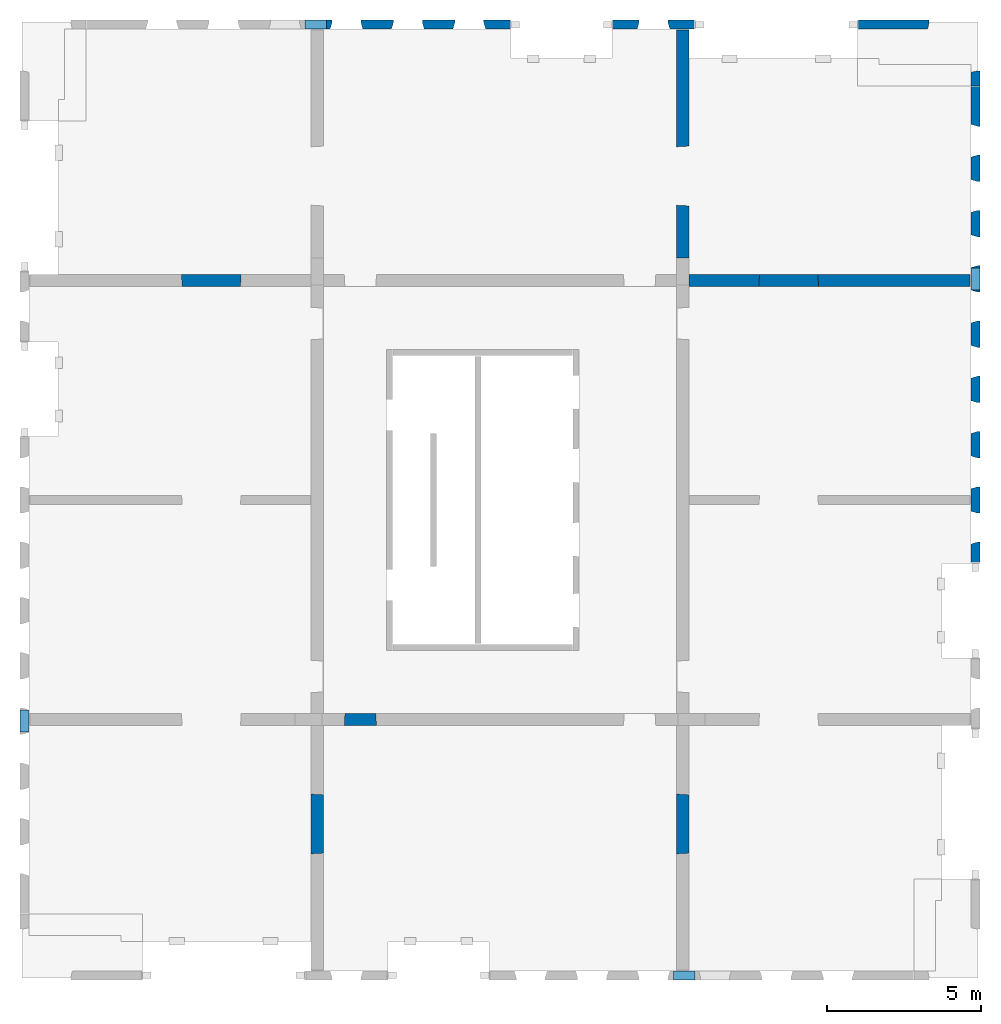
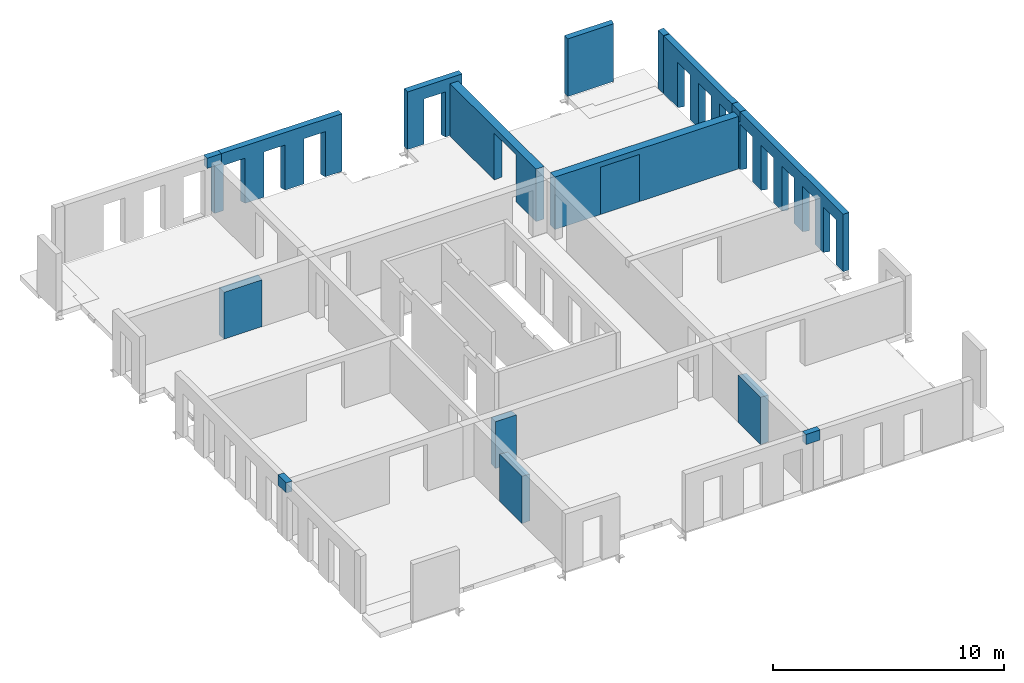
# One storey, part 4 of 4: 17 walls, 19 openings.
"""IFC2X3 building model written with IfcOpenShell, lengths in millimetres."""

import ifcopenshell
import ifcopenshell.guid

model = None  # the IFC model being written
_history = None  # IfcOwnerHistory: only IFC2X3 demands one
_inside = {}  # id of a spatial element -> (the spatial element, [elements in it])
_under = {}  # id of a project, library or spatial element -> (it, [spatial elements below it])
_declared = {}  # id of a project -> (the project, [libraries it declares])
_typed = {}  # id of a type object -> (the type object, [elements of that type])
_made_of = {}  # id of a material, layer set ... -> (it, [elements and type objects made of it])


def new_model(schema):
    """Start an empty IFC model of exactly this schema.

    Asked for "IFC4X3", IfcOpenShell would pick the latest addendum, in which some entities
    have other attributes; the version numbers below select the first issue.
    IFC2X3 requires an IfcOwnerHistory on every rooted entity: one is made here for all.
    """
    global model, _history
    if schema == "IFC4X3":
        model = ifcopenshell.file(schema_version=(4, 3, 0, 0))
    else:
        model = ifcopenshell.file(schema=schema)
    _inside.clear()
    _under.clear()
    _declared.clear()
    _typed.clear()
    _made_of.clear()
    _history = None
    if model.schema == "IFC2X3":
        org = make("IfcOrganization", Name="unknown")
        user = make(
            "IfcPersonAndOrganization",
            ThePerson=make("IfcPerson", FamilyName="unknown"),
            TheOrganization=org,
        )
        app = make(
            "IfcApplication",
            ApplicationDeveloper=org,
            Version="unknown",
            ApplicationFullName="unknown",
            ApplicationIdentifier="unknown",
        )
        _history = make(
            "IfcOwnerHistory",
            OwningUser=user,
            OwningApplication=app,
            ChangeAction="ADDED",
            CreationDate=0,
        )
    return model


def make(cls, **values):
    """One entity of the class cls with the attributes given. An attribute that is None is left unset."""
    return model.create_entity(
        cls, **{name: value for name, value in values.items() if value is not None}
    )


def entity(cls, *values):
    """Any entity or typed value of the class cls, its attributes in the order of the schema. None: left unset."""
    e = model.create_entity(cls)
    for i, value in enumerate(values):
        if value is not None:
            e[i] = value
    return e


def rooted(cls, **values):
    """An entity with a GlobalId (a new one), such as an element, a storey or a relation."""
    return make(cls, GlobalId=ifcopenshell.guid.new(), OwnerHistory=_history, **values)


def si_unit(unit_type, name, prefix=None):
    """IfcSIUnit, for example si_unit("LENGTHUNIT", "METRE", prefix="MILLI")."""
    return make("IfcSIUnit", UnitType=unit_type, Prefix=prefix, Name=name)


def converted_unit(unit_type, name, factor, base, dimensions=None, offset=None):
    """IfcConversionBasedUnit, such as the inch: factor (a typed value) times the base unit."""
    return make(
        "IfcConversionBasedUnit"
        if offset is None
        else "IfcConversionBasedUnitWithOffset",
        ConversionOffset=offset,
        Dimensions=None
        if dimensions is None
        else entity("IfcDimensionalExponents", *dimensions),
        UnitType=unit_type,
        Name=name,
        ConversionFactor=make(
            "IfcMeasureWithUnit", ValueComponent=factor, UnitComponent=base
        ),
    )


def derived_unit(unit_type, elements):
    """IfcDerivedUnit: a product of units, each with its exponent."""
    return make(
        "IfcDerivedUnit",
        Elements=[
            make("IfcDerivedUnitElement", Unit=unit, Exponent=power)
            for unit, power in elements
        ],
        UnitType=unit_type,
    )


def assignment(units):
    """IfcUnitAssignment: the units of a project."""
    return None if units is None else make("IfcUnitAssignment", Units=units)


def point(xyz):
    """IfcCartesianPoint."""
    return None if xyz is None else make("IfcCartesianPoint", Coordinates=xyz)


def direction(xyz):
    """IfcDirection."""
    return None if xyz is None else make("IfcDirection", DirectionRatios=xyz)


def frame(location, z_axis=None, x_axis=None):
    """IfcAxis2Placement3D, a coordinate frame: its origin and axes. An axis left out is left unset."""
    return make(
        "IfcAxis2Placement3D",
        Location=point(location),
        Axis=direction(z_axis),
        RefDirection=direction(x_axis),
    )


def frame_2d(location, x_axis=None):
    """IfcAxis2Placement2D, a coordinate frame in the plane: its origin and x axis."""
    return make(
        "IfcAxis2Placement2D", Location=point(location), RefDirection=direction(x_axis)
    )


def origin():
    """The frame at (0, 0, 0) with its axes left unset."""
    return frame((0.0, 0.0, 0.0))


def place(relative_to, where):
    """IfcLocalPlacement: puts the frame where relative to a parent placement (None: the world)."""
    return make(
        "IfcLocalPlacement", PlacementRelTo=relative_to, RelativePlacement=where
    )


def context(
    kind, dimensions, precision=None, world=None, true_north=None, identifier=None
):
    """IfcGeometricRepresentationContext, for example the 3D "Model" context."""
    return make(
        "IfcGeometricRepresentationContext",
        ContextIdentifier=identifier,
        ContextType=kind,
        CoordinateSpaceDimension=dimensions,
        Precision=precision,
        WorldCoordinateSystem=world,
        TrueNorth=true_north,
    )


def subcontext(parent, identifier, kind, view, scale=None):
    """IfcGeometricRepresentationSubContext, for example "Body" below "Model"."""
    return make(
        "IfcGeometricRepresentationSubContext",
        ContextIdentifier=identifier,
        ContextType=kind,
        ParentContext=parent,
        TargetScale=scale,
        TargetView=view,
    )


def project(units=None, contexts=None):
    """IfcProject with its units and contexts."""
    return rooted(
        "IfcProject",
        Name="project",
        RepresentationContexts=contexts,
        UnitsInContext=assignment(units),
    )


def spatial(cls, under=None, at=None, **own):
    """A site, building, storey or space (cls), placed at a placement, below another one or the project."""
    s = rooted(cls, ObjectPlacement=at, **own)
    if under is not None:
        _under.setdefault(under.id(), (under, []))[1].append(s)
    return s


def profile(cls, at=None, kind="AREA", **sizes):
    """A parametric profile (cls). Its sizes go by their IFC names, for example OverallWidth=200.0."""
    return make(cls, ProfileType=kind, Position=at, **sizes)


def rectangle(**sizes):
    """IfcRectangleProfileDef."""
    return profile("IfcRectangleProfileDef", **sizes)


def extrude(swept, where, along, depth):
    """IfcExtrudedAreaSolid: the profile swept, set in the frame where, extruded along a direction by depth."""
    return make(
        "IfcExtrudedAreaSolid",
        SweptArea=swept,
        Position=where,
        ExtrudedDirection=direction(along),
        Depth=depth,
    )


def faces_of(points, faces, orient=None, outer=None):
    """IfcFace entities. A face is a list of loops; a loop is a list of indices into points, from 0.

    orient and outer hold one flag for each loop. By default every Orientation is true, the
    first loop of a face is its IfcFaceOuterBound and the others are IfcFaceBound.
    """
    made = []
    for i, loops in enumerate(faces):
        bounds = []
        for j, loop in enumerate(loops):
            is_outer = j == 0 if outer is None else outer[i][j]
            bounds.append(
                make(
                    "IfcFaceOuterBound" if is_outer else "IfcFaceBound",
                    Bound=make("IfcPolyLoop", Polygon=[points[k] for k in loop]),
                    Orientation=True if orient is None else orient[i][j],
                )
            )
        made.append(make("IfcFace", Bounds=bounds))
    return made


def faceted_brep(points, faces, orient=None, outer=None, voids=None):
    """IfcFacetedBrep: a solid bounded by flat faces; with voids (closed shells), ...WithVoids."""
    shared = [point(p) for p in points]
    hull = make("IfcClosedShell", CfsFaces=faces_of(shared, faces, orient, outer))
    if voids is None:
        return make("IfcFacetedBrep", Outer=hull)
    return make(
        "IfcFacetedBrepWithVoids",
        Outer=hull,
        Voids=[
            make(cls, CfsFaces=faces_of(shared, fs, o, b)) for cls, fs, o, b in voids
        ],
    )


def shape(context_of_items, identifier, shape_type, items):
    """IfcShapeRepresentation: the items that make up one representation, for example the "Body"."""
    return make(
        "IfcShapeRepresentation",
        ContextOfItems=context_of_items,
        RepresentationIdentifier=identifier,
        RepresentationType=shape_type,
        Items=items,
    )


def material(Name=None, Category=None):
    """IfcMaterial."""
    return make("IfcMaterial", Name=Name, Category=Category)


def layer(
    of_material, thickness, ventilated=None, Name=None, Category=None, Priority=None
):
    """IfcMaterialLayer: one layer of a wall or slab, of a material (None: an air gap)."""
    return make(
        "IfcMaterialLayer",
        Material=of_material,
        LayerThickness=thickness,
        IsVentilated=ventilated,
        Name=Name,
        Category=Category,
        Priority=Priority,
    )


def layer_set(layers, Name=None):
    """IfcMaterialLayerSet."""
    return make("IfcMaterialLayerSet", MaterialLayers=layers, LayerSetName=Name)


def layer_usage(for_layer_set, set_direction, sense, offset, extent=None):
    """IfcMaterialLayerSetUsage: how a layer set lies in its element."""
    return make(
        "IfcMaterialLayerSetUsage",
        ForLayerSet=for_layer_set,
        LayerSetDirection=set_direction,
        DirectionSense=sense,
        OffsetFromReferenceLine=offset,
        ReferenceExtent=extent,
    )


def made_of(thing, what):
    """Note that an element or type object is made of a material, layer set ...; save() writes the relation."""
    if what is not None:
        _made_of.setdefault(what.id(), (what, []))[1].append(thing)
    return thing


def type_object(cls, material=None, **own):
    """A type object (cls), such as IfcWallType, which elements share."""
    return made_of(rooted(cls, **own), material)


def element(
    cls,
    number,
    at=None,
    inside=None,
    cuts=None,
    type_object=None,
    material=None,
    context=None,
    identifier="Body",
    shape_type=None,
    held_by="IfcProductDefinitionShape",
    body=None,
    shapes=None,
    **own,
):
    """One element of the class cls, such as IfcWall. Its Tag is "e" and its number.

    at: its placement. inside: the storey or other place that contains it. cuts: it is an
    opening in that element (IfcRelVoidsElement). A single representation is given by context,
    identifier, shape_type and body (its items); several are given by shapes. held_by: the class
    of the entity that holds the representations. save() writes the other relations.
    """
    e = rooted(cls, Tag="e%d" % number, ObjectPlacement=at, **own)
    if body is not None:
        shapes = [shape(context, identifier, shape_type, body)]
    if shapes is not None:
        e.Representation = make(held_by, Representations=shapes)
    if inside is not None:
        _inside.setdefault(inside.id(), (inside, []))[1].append(e)
    if cuts is not None:
        rooted(
            "IfcRelVoidsElement", RelatingBuildingElement=cuts, RelatedOpeningElement=e
        )
    if type_object is not None:
        _typed.setdefault(type_object.id(), (type_object, []))[1].append(e)
    return made_of(e, material)


def aggregate(whole, parts):
    """IfcRelAggregates: a whole, such as a stair, and the parts it consists of."""
    return rooted("IfcRelAggregates", RelatingObject=whole, RelatedObjects=parts)


def save(model, path):
    """Write the relations noted so far, then the file.

    IfcRelAggregates (storeys below a building ...), IfcRelContainedInSpatialStructure (elements
    in a storey), IfcRelDefinesByType, IfcRelAssociatesMaterial and IfcRelDeclares: one each for
    every whole, place, type object, material and project.
    """
    for whole, parts in _under.values():
        aggregate(whole, parts)
    for where, things in _inside.values():
        rooted(
            "IfcRelContainedInSpatialStructure",
            RelatedElements=things,
            RelatingStructure=where,
        )
    for kind, things in _typed.values():
        rooted("IfcRelDefinesByType", RelatedObjects=things, RelatingType=kind)
    for what, things in _made_of.values():
        rooted("IfcRelAssociatesMaterial", RelatedObjects=things, RelatingMaterial=what)
    for by, libraries in _declared.values():
        rooted("IfcRelDeclares", RelatingContext=by, RelatedDefinitions=libraries)
    model.write(path)


model = new_model("IFC2X3")

# Units and contexts
model_context = context("Model", 3, precision=0.01, world=origin(), true_north=direction((6.12303176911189e-17, 1.0)))
body_context = subcontext(model_context, "Body", "Model", "MODEL_VIEW")
ifc_project = project(units=[si_unit("LENGTHUNIT", "METRE", prefix="MILLI"), si_unit("AREAUNIT", "SQUARE_METRE"), si_unit("VOLUMEUNIT", "CUBIC_METRE"), converted_unit("PLANEANGLEUNIT", "DEGREE", entity("IfcRatioMeasure", 0.0174532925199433), si_unit("PLANEANGLEUNIT", "RADIAN"), dimensions=[0, 0, 0, 0, 0, 0, 0]), si_unit("MASSUNIT", "GRAM", prefix="KILO"), derived_unit("MASSDENSITYUNIT", [(si_unit("MASSUNIT", "GRAM", prefix="KILO"), 1), (si_unit("LENGTHUNIT", "METRE"), -3)]), si_unit("TIMEUNIT", "SECOND"), si_unit("FREQUENCYUNIT", "HERTZ"), si_unit("THERMODYNAMICTEMPERATUREUNIT", "DEGREE_CELSIUS"), derived_unit("THERMALTRANSMITTANCEUNIT", [(si_unit("MASSUNIT", "GRAM", prefix="KILO"), 1), (si_unit("THERMODYNAMICTEMPERATUREUNIT", "KELVIN"), -1), (si_unit("TIMEUNIT", "SECOND"), -3)]), derived_unit("VOLUMETRICFLOWRATEUNIT", [(si_unit("LENGTHUNIT", "METRE"), 3), (si_unit("TIMEUNIT", "SECOND"), -1)]), si_unit("ELECTRICCURRENTUNIT", "AMPERE"), si_unit("ELECTRICVOLTAGEUNIT", "VOLT"), si_unit("POWERUNIT", "WATT"), si_unit("FORCEUNIT", "NEWTON", prefix="KILO"), si_unit("ILLUMINANCEUNIT", "LUX"), si_unit("LUMINOUSFLUXUNIT", "LUMEN"), si_unit("LUMINOUSINTENSITYUNIT", "CANDELA"), derived_unit("USERDEFINED", [(si_unit("MASSUNIT", "GRAM", prefix="KILO"), -1), (si_unit("LENGTHUNIT", "METRE"), -2), (si_unit("TIMEUNIT", "SECOND"), 3), (si_unit("LUMINOUSFLUXUNIT", "LUMEN"), 1)]), derived_unit("LINEARVELOCITYUNIT", [(si_unit("LENGTHUNIT", "METRE"), 1), (si_unit("TIMEUNIT", "SECOND"), -1)]), si_unit("PRESSUREUNIT", "PASCAL"), derived_unit("USERDEFINED", [(si_unit("LENGTHUNIT", "METRE"), -2), (si_unit("MASSUNIT", "GRAM", prefix="KILO"), 1), (si_unit("TIMEUNIT", "SECOND"), -2)])], contexts=[model_context])

# Site, building, storey
site_placement = place(None, origin())
site = spatial("IfcSite", under=ifc_project, at=site_placement, Name="Default", CompositionType="ELEMENT")
building_placement = place(site_placement, origin())
building = spatial("IfcBuilding", under=site, at=building_placement, Name="niet gebruiken", CompositionType="ELEMENT")
storey_placement = place(building_placement, frame((0.0, 0.0, 122040.0)))
storey = spatial("IfcBuildingStorey", under=building, at=storey_placement, Name="39 negenendertigste verdieping", CompositionType="ELEMENT", Elevation=122040.0)

# Walls
ifc_material_1 = material(Name="NLRS_f2_beton ihwg")
ifc_layer_1 = layer(ifc_material_1, 300.0)
ifc_layer_set_1 = layer_set([ifc_layer_1], Name="Basic Wall:NLRS_21.21_WA_beton ihwg d=300_gen")
ifc_layer_usage_1 = layer_usage(ifc_layer_set_1, "AXIS2", "NEGATIVE", 150.0)
wall_type_1 = type_object("IfcWallType", Name="Basic Wall:NLRS_21.21_WA_beton ihwg d=300_gen", PredefinedType="STANDARD", material=ifc_layer_set_1)
wall_1_placement = place(storey_placement, frame((148105.0, 2020.0, 2455.0), z_axis=(0.0, 0.0, 1.0), x_axis=(-1.0, 0.0, 0.0)))
element("IfcWallStandardCase", 1, at=wall_1_placement, inside=storey, type_object=wall_type_1, material=ifc_layer_usage_1, Name="Basic Wall:NLRS_21.21_WA_beton ihwg d=300_gen", ObjectType="Basic Wall:NLRS_21.21_WA_beton ihwg d=300_gen", context=body_context, shape_type="SweptSolid", body=[
    extrude(rectangle(XDim=710.000000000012, YDim=300.0, at=frame_2d((355.000000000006, -1.4210854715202e-14), x_axis=(-1.0, 0.0))), origin(), (0.0, 0.0, 1.0), 535.0),
])
ifc_layer_usage_2 = layer_usage(ifc_layer_set_1, "AXIS2", "NEGATIVE", 150.0)
wall_2_placement = place(storey_placement, frame((135395.0, 32980.0, 2455.0)))
element("IfcWallStandardCase", 2, at=wall_2_placement, inside=storey, type_object=wall_type_1, material=ifc_layer_usage_2, Name="Basic Wall:NLRS_21.21_WA_beton ihwg d=300_gen", ObjectType="Basic Wall:NLRS_21.21_WA_beton ihwg d=300_gen", context=body_context, shape_type="SweptSolid", body=[
    extrude(rectangle(XDim=710.000000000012, YDim=300.000000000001, at=frame_2d((355.000000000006, 0.0), x_axis=(-1.0, 0.0))), origin(), (0.0, 0.0, 1.0), 535.0),
])
ifc_layer_usage_3 = layer_usage(ifc_layer_set_1, "AXIS2", "NEGATIVE", 150.0)
wall_3_placement = place(storey_placement, frame((157230.0, 25055.0, 2455.0), z_axis=(0.0, 0.0, 1.0), x_axis=(0.0, -1.0, 0.0)))
element("IfcWallStandardCase", 3, at=wall_3_placement, inside=storey, type_object=wall_type_1, material=ifc_layer_usage_3, Name="Basic Wall:NLRS_21.21_WA_beton ihwg d=300_gen", ObjectType="Basic Wall:NLRS_21.21_WA_beton ihwg d=300_gen", context=body_context, shape_type="SweptSolid", body=[
    extrude(rectangle(XDim=710.000000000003, YDim=300.000000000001, at=frame_2d((355.000000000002, 9.9475983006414e-13), x_axis=(-1.0, 0.0))), origin(), (0.0, 0.0, 1.0), 535.0),
])
ifc_layer_usage_4 = layer_usage(ifc_layer_set_1, "AXIS2", "NEGATIVE", 150.0)
wall_4_placement = place(storey_placement, frame((126270.0, 9945.0, 2455.0), z_axis=(0.0, 0.0, 1.0), x_axis=(0.0, 1.0, 0.0)))
element("IfcWallStandardCase", 4, at=wall_4_placement, inside=storey, type_object=wall_type_1, material=ifc_layer_usage_4, Name="Basic Wall:NLRS_21.21_WA_beton ihwg d=300_gen", ObjectType="Basic Wall:NLRS_21.21_WA_beton ihwg d=300_gen", context=body_context, shape_type="SweptSolid", body=[
    extrude(rectangle(XDim=710.000000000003, YDim=300.000000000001, at=frame_2d((355.000000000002, 0.0), x_axis=(-1.0, 0.0))), origin(), (0.0, 0.0, 1.0), 535.0),
])

# Wall, opening
ifc_material_2 = material(Name="NLRS_f2_beton prefab")
ifc_layer_2 = layer(ifc_material_2, 400.0)
ifc_layer_set_2 = layer_set([ifc_layer_2], Name="Basic Wall:NLRS_22.21_WA_beton prefab d=400_gen")
ifc_layer_usage_5 = layer_usage(ifc_layer_set_2, "AXIS2", "NEGATIVE", 200.0)
wall_type_2 = type_object("IfcWallType", Name="Basic Wall:NLRS_22.21_WA_beton prefab d=400_gen", PredefinedType="STANDARD", material=ifc_layer_set_2)
wall_5_placement = place(storey_placement, frame((157060.0, 24650.0, -70.0), z_axis=(0.0, 0.0, 1.0), x_axis=(-1.0, 0.0, 0.0)))
wall_5 = element("IfcWallStandardCase", 5, at=wall_5_placement, inside=storey, type_object=wall_type_2, material=ifc_layer_usage_5, Name="Basic Wall:NLRS_22.21_WA_beton prefab d=400_gen", ObjectType="Basic Wall:NLRS_22.21_WA_beton prefab d=400_gen", context=body_context, shape_type="SweptSolid", body=[
    extrude(rectangle(XDim=9160.00000000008, YDim=399.999999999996, at=frame_2d((4580.00000000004, -9.2370555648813e-13), x_axis=(-1.0, 0.0))), origin(), (0.0, 0.0, 1.0), 2770.00000000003),
])
opening_1_placement = place(wall_5_placement, frame((6884.0, 200.0, 0.0)))
element("IfcOpeningElement", 6, at=opening_1_placement, cuts=wall_5, Name="Basic Wall:NLRS_22.21_WA_beton prefab d=400_gen", ObjectType="Opening", context=body_context, shape_type="Brep", body=[
    faceted_brep([(-24.0, -400.0, 2470.0), (-1924.0, -400.0, 2470.0), (-1924.0, -400.0, 0.0), (-24.0, -400.0, 0.0), (0.0, 0.0, 2494.0), (0.0, 0.0, 0.0), (-1948.0, 0.0, 0.0), (-1948.0, 0.0, 2494.0)], [[[0, 1, 2, 3]], [[4, 5, 6, 7]], [[4, 7, 1, 0]], [[7, 6, 2, 1]], [[6, 5, 3, 2]], [[5, 4, 0, 3]]]),
])

ifc_layer_usage_6 = layer_usage(ifc_layer_set_2, "AXIS2", "NEGATIVE", 200.0)
wall_6_placement = place(storey_placement, frame((147700.0, 25380.0, -70.0), z_axis=(0.0, 0.0, 1.0), x_axis=(0.0, 1.0, 0.0)))
wall_6 = element("IfcWallStandardCase", 7, at=wall_6_placement, inside=storey, type_object=wall_type_2, material=ifc_layer_usage_6, Name="Basic Wall:NLRS_22.21_WA_beton prefab d=400_gen", ObjectType="Basic Wall:NLRS_22.21_WA_beton prefab d=400_gen", context=body_context, shape_type="SweptSolid", body=[
    extrude(rectangle(XDim=7429.99999999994, YDim=400.000000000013, at=frame_2d((3714.99999999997, 7.14805992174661e-12), x_axis=(-1.0, 0.0))), origin(), (0.0, 0.0, 1.0), 2770.00000000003),
])
opening_2_placement = place(wall_6_placement, frame((1696.0, 200.0, 0.0)))
element("IfcOpeningElement", 8, at=opening_2_placement, cuts=wall_6, Name="Basic Wall:NLRS_22.21_WA_beton prefab d=400_gen", ObjectType="Opening", context=body_context, shape_type="Brep", body=[
    faceted_brep([(1924.0, 0.0, 2470.0), (1924.0, 0.0, 0.0), (24.0, 0.0, 0.0), (24.0, 0.0, 2470.0), (1948.0, -400.0, 2494.0), (0.0, -400.0, 2494.0), (0.0, -400.0, 0.0), (1948.0, -400.0, 0.0)], [[[0, 1, 2, 3]], [[4, 5, 6, 7]], [[4, 0, 3, 5]], [[5, 3, 2, 6]], [[6, 2, 1, 7]], [[7, 1, 0, 4]]]),
])

ifc_layer_3 = layer(ifc_material_2, 300.0)
ifc_layer_set_3 = layer_set([ifc_layer_3], Name="Basic Wall:NLRS_21.21_WA_beton prefab d=300/320_gen")
ifc_layer_usage_7 = layer_usage(ifc_layer_set_3, "AXIS2", "NEGATIVE", 150.0)
wall_type_3 = type_object("IfcWallType", Name="Basic Wall:NLRS_21.21_WA_beton prefab d=300/320_gen", PredefinedType="STANDARD", material=ifc_layer_set_3)
wall_7_placement = place(storey_placement, frame((145390.0, 32980.0, -50.0)))
wall_7 = element("IfcWallStandardCase", 9, at=wall_7_placement, inside=storey, type_object=wall_type_3, material=ifc_layer_usage_7, Name="Basic Wall:NLRS_21.21_WA_beton prefab d=300/320_gen", ObjectType="Basic Wall:NLRS_21.21_WA_beton prefab d=300/320_gen", context=body_context, shape_type="SweptSolid", body=[
    extrude(rectangle(XDim=2720.00000000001, YDim=300.000000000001, at=frame_2d((1360.0, -4.54747350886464e-13), x_axis=(-1.0, 0.0))), origin(), (0.0, 0.0, 1.0), 3040.0),
])
opening_3_placement = place(wall_7_placement, frame((825.0, -150.0, -20.0)))
element("IfcOpeningElement", 10, at=opening_3_placement, cuts=wall_7, Name="Basic Wall:NLRS_21.21_WA_beton prefab d=300/320_gen", ObjectType="Opening", context=body_context, shape_type="Brep", body=[
    faceted_brep([(0.0, 0.0, 2405.0), (0.0, 0.0, 0.0), (1070.0, 0.0, 0.0), (1070.0, 0.0, 2405.0), (1005.0, 219.0, 2370.0), (65.0, 219.0, 2370.0), (1005.0, 219.0, 0.0), (65.0, 219.0, 0.0), (65.0, 300.0, 0.0), (1005.0, 300.0, 0.0), (65.0, 300.0, 2370.0), (1005.0, 300.0, 2370.0)], [[[0, 1, 2, 3]], [[3, 4, 5, 0]], [[2, 6, 4, 3]], [[1, 7, 8, 9, 6, 2]], [[0, 5, 7, 1]], [[10, 11, 9, 8]], [[10, 5, 4, 11]], [[11, 4, 6, 9]], [[8, 7, 5, 10]]]),
])

# Wall, openings
ifc_layer_usage_8 = layer_usage(ifc_layer_set_3, "AXIS2", "NEGATIVE", 150.0)
wall_8_placement = place(storey_placement, frame((157230.0, 30960.0, -50.0), z_axis=(0.0, 0.0, 1.0), x_axis=(0.0, -1.0, 0.0)))
wall_8 = element("IfcWallStandardCase", 11, at=wall_8_placement, inside=storey, type_object=wall_type_3, material=ifc_layer_usage_8, Name="Basic Wall:NLRS_21.21_WA_beton prefab d=300/320_gen", ObjectType="Basic Wall:NLRS_21.21_WA_beton prefab d=300/320_gen", context=body_context, shape_type="SweptSolid", body=[
    extrude(rectangle(XDim=6249.99999999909, YDim=300.000000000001, at=frame_2d((3124.99999999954, -8.61177795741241e-12), x_axis=(-1.0, 0.0))), origin(), (0.0, 0.0, 1.0), 3039.99999999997),
])
opening_4_placement = place(wall_8_placement, frame((2295.0, -150.0, -20.0)))
element("IfcOpeningElement", 12, at=opening_4_placement, cuts=wall_8, Name="Basic Wall:NLRS_21.21_WA_beton prefab d=300/320_gen", ObjectType="Opening", context=body_context, shape_type="Brep", body=[
    faceted_brep([(-1070.0, 0.0, 2405.0), (-1070.0, 0.0, 0.0), (0.0, 0.0, 0.0), (0.0, 0.0, 2405.0), (-65.0, 219.0, 2370.0), (-1005.0, 219.0, 2370.0), (-65.0, 219.0, 0.0), (-1005.0, 219.0, 0.0), (-1005.0, 300.0, 0.0), (-65.0, 300.0, 0.0), (-1005.0, 300.0, 2370.0), (-65.0, 300.0, 2370.0)], [[[0, 1, 2, 3]], [[3, 4, 5, 0]], [[2, 6, 4, 3]], [[1, 7, 8, 9, 6, 2]], [[0, 5, 7, 1]], [[10, 11, 9, 8]], [[10, 5, 4, 11]], [[11, 4, 6, 9]], [[8, 7, 5, 10]]]),
])
opening_5_placement = place(wall_8_placement, frame((4095.0, -150.0, -20.0)))
element("IfcOpeningElement", 13, at=opening_5_placement, cuts=wall_8, Name="Basic Wall:NLRS_21.21_WA_beton prefab d=300/320_gen", ObjectType="Opening", context=body_context, shape_type="Brep", body=[
    faceted_brep([(-1070.0, 0.0, 2405.0), (-1070.0, 0.0, 0.0), (0.0, 0.0, 0.0), (0.0, 0.0, 2405.0), (-65.0, 219.0, 2370.0), (-1005.0, 219.0, 2370.0), (-65.0, 219.0, 0.0), (-1005.0, 219.0, 0.0), (-1005.0, 300.0, 0.0), (-65.0, 300.0, 0.0), (-1005.0, 300.0, 2370.0), (-65.0, 300.0, 2370.0)], [[[0, 1, 2, 3]], [[3, 4, 5, 0]], [[2, 6, 4, 3]], [[1, 7, 8, 9, 6, 2]], [[0, 5, 7, 1]], [[10, 11, 9, 8]], [[10, 5, 4, 11]], [[11, 4, 6, 9]], [[8, 7, 5, 10]]]),
])
opening_6_placement = place(wall_8_placement, frame((5895.0, -150.0, -20.0)))
element("IfcOpeningElement", 14, at=opening_6_placement, cuts=wall_8, Name="Basic Wall:NLRS_21.21_WA_beton prefab d=300/320_gen", ObjectType="Opening", context=body_context, shape_type="Brep", body=[
    faceted_brep([(-1070.0, 0.0, 2405.0), (-1070.0, 0.0, 0.0), (0.0, 0.0, 0.0), (0.0, 0.0, 2405.0), (-65.0, 219.0, 2370.0), (-1005.0, 219.0, 2370.0), (-65.0, 219.0, 0.0), (-1005.0, 219.0, 0.0), (-1005.0, 300.0, 0.0), (-65.0, 300.0, 0.0), (-1005.0, 300.0, 2370.0), (-65.0, 300.0, 2370.0)], [[[0, 1, 2, 3]], [[3, 4, 5, 0]], [[2, 6, 4, 3]], [[1, 7, 8, 9, 6, 2]], [[0, 5, 7, 1]], [[10, 11, 9, 8]], [[10, 5, 4, 11]], [[11, 4, 6, 9]], [[8, 7, 5, 10]]]),
])
opening_7_placement = place(wall_8_placement, origin())
element("IfcOpeningElement", 15, at=opening_7_placement, cuts=wall_8, Name="Basic Wall:NLRS_21.21_WA_beton prefab d=300/320_gen", ObjectType="Opening", context=body_context, shape_type="SweptSolid", body=[
    extrude(rectangle(XDim=534.99999999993, YDim=344.999999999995, at=frame_2d((0.0, -2.17426077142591e-12), x_axis=(1.0, 0.0))), frame((6077.49999999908, 150.0, 2772.5), z_axis=(0.0, -1.0, 0.0), x_axis=(0.0, 0.0, 1.0)), (0.0, 0.0, 1.0), 300.0),
])

# Wall, opening
ifc_layer_usage_9 = layer_usage(ifc_layer_set_3, "AXIS2", "NEGATIVE", 150.0)
wall_9_placement = place(storey_placement, frame((153390.0, 32980.0, -50.0)))
wall_9 = element("IfcWallStandardCase", 16, at=wall_9_placement, inside=storey, type_object=wall_type_3, material=ifc_layer_usage_9, Name="Basic Wall:NLRS_21.21_WA_beton prefab d=300/320_gen", ObjectType="Basic Wall:NLRS_21.21_WA_beton prefab d=300/320_gen", context=body_context, shape_type="SweptSolid", body=[
    extrude(rectangle(XDim=2330.00000000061, YDim=300.000000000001, at=frame_2d((1165.00000000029, -1.29318777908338e-12), x_axis=(-1.0, 0.0))), origin(), (0.0, 0.0, 1.0), 3040.0),
])
opening_8_placement = place(wall_9_placement, frame((2265.0, -250.0, 0.0)))
element("IfcOpeningElement", 17, at=opening_8_placement, cuts=wall_9, Name="Basic Wall:NLRS_21.21_WA_beton prefab d=300/320_gen", ObjectType="Opening", context=body_context, shape_type="Brep", body=[
    faceted_brep([(65.0, 0.0, 3040.0), (65.0, 319.0, 3040.0), (0.0, 0.0, 3040.0), (65.0, 0.0, 0.0), (0.0, 0.0, 0.0), (65.0, 319.0, 0.0)], [[[0, 1, 2]], [[3, 4, 5]], [[2, 4, 3, 0]], [[0, 3, 5, 1]], [[1, 5, 4, 2]]]),
])

ifc_layer_usage_10 = layer_usage(ifc_layer_set_3, "AXIS2", "NEGATIVE", 150.0)
wall_10_placement = place(storey_placement, frame((157230.0, 31470.0, -50.0), z_axis=(0.0, 0.0, 1.0), x_axis=(0.0, -1.0, 0.0)))
wall_10 = element("IfcWallStandardCase", 18, at=wall_10_placement, inside=storey, type_object=wall_type_3, material=ifc_layer_usage_10, Name="Basic Wall:NLRS_21.21_WA_beton prefab d=300/320_gen", ObjectType="Basic Wall:NLRS_21.21_WA_beton prefab d=300/320_gen", context=body_context, shape_type="SweptSolid", body=[
    extrude(rectangle(XDim=489.999999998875, YDim=300.000000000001, at=frame_2d((244.999999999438, -7.8159700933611e-13), x_axis=(-1.0, 0.0))), origin(), (0.0, 0.0, 1.0), 3040.0),
])
opening_9_placement = place(wall_10_placement, frame((65.0, -250.0, 0.0)))
element("IfcOpeningElement", 19, at=opening_9_placement, cuts=wall_10, Name="Basic Wall:NLRS_21.21_WA_beton prefab d=300/320_gen", ObjectType="Opening", context=body_context, shape_type="Brep", body=[
    faceted_brep([(-65.0, 0.0, 3040.0), (0.0, 0.0, 3040.0), (-65.0, 319.0, 3040.0), (-65.0, 0.0, 0.0), (-65.0, 319.0, 0.0), (0.0, 0.0, 0.0)], [[[0, 1, 2]], [[3, 4, 5]], [[1, 0, 3, 5]], [[0, 2, 4, 3]], [[2, 1, 5, 4]]]),
])

# Wall, openings
ifc_layer_usage_11 = layer_usage(ifc_layer_set_3, "AXIS2", "NEGATIVE", 150.0)
wall_11_placement = place(storey_placement, frame((157230.0, 24690.0, -50.0), z_axis=(0.0, 0.0, 1.0), x_axis=(0.0, -1.0, 0.0)))
wall_11 = element("IfcWallStandardCase", 20, at=wall_11_placement, inside=storey, type_object=wall_type_3, material=ifc_layer_usage_11, Name="Basic Wall:NLRS_21.21_WA_beton prefab d=300/320_gen", ObjectType="Basic Wall:NLRS_21.21_WA_beton prefab d=300/320_gen", context=body_context, shape_type="SweptSolid", body=[
    extrude(rectangle(XDim=9250.00000000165, YDim=300.000000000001, at=frame_2d((4625.00000000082, -4.43378667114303e-12), x_axis=(-1.0, 0.0))), origin(), (0.0, 0.0, 1.0), 3040.0),
])
opening_10_placement = place(wall_11_placement, frame((8625.0, -150.0, -20.0)))
element("IfcOpeningElement", 21, at=opening_10_placement, cuts=wall_11, Name="Basic Wall:NLRS_21.21_WA_beton prefab d=300/320_gen", ObjectType="Opening", context=body_context, shape_type="Brep", body=[
    faceted_brep([(-1070.0, 0.0, 2405.0), (-1070.0, 0.0, 0.0), (0.0, 0.0, 0.0), (0.0, 0.0, 2405.0), (-65.0, 219.0, 2370.0), (-1005.0, 219.0, 2370.0), (-65.0, 219.0, 0.0), (-1005.0, 219.0, 0.0), (-1005.0, 300.0, 0.0), (-65.0, 300.0, 0.0), (-1005.0, 300.0, 2370.0), (-65.0, 300.0, 2370.0)], [[[0, 1, 2, 3]], [[3, 4, 5, 0]], [[2, 6, 4, 3]], [[1, 7, 8, 9, 6, 2]], [[0, 5, 7, 1]], [[10, 11, 9, 8]], [[10, 5, 4, 11]], [[11, 4, 6, 9]], [[8, 7, 5, 10]]]),
])
opening_11_placement = place(wall_11_placement, frame((5025.0, -150.0, -20.0)))
element("IfcOpeningElement", 22, at=opening_11_placement, cuts=wall_11, Name="Basic Wall:NLRS_21.21_WA_beton prefab d=300/320_gen", ObjectType="Opening", context=body_context, shape_type="Brep", body=[
    faceted_brep([(-1070.0, 0.0, 2405.0), (-1070.0, 0.0, 0.0), (0.0, 0.0, 0.0), (0.0, 0.0, 2405.0), (-65.0, 219.0, 2370.0), (-1005.0, 219.0, 2370.0), (-65.0, 219.0, 0.0), (-1005.0, 219.0, 0.0), (-1005.0, 300.0, 0.0), (-65.0, 300.0, 0.0), (-1005.0, 300.0, 2370.0), (-65.0, 300.0, 2370.0)], [[[0, 1, 2, 3]], [[3, 4, 5, 0]], [[2, 6, 4, 3]], [[1, 7, 8, 9, 6, 2]], [[0, 5, 7, 1]], [[10, 11, 9, 8]], [[10, 5, 4, 11]], [[11, 4, 6, 9]], [[8, 7, 5, 10]]]),
])
opening_12_placement = place(wall_11_placement, frame((3225.0, -150.0, -20.0)))
element("IfcOpeningElement", 23, at=opening_12_placement, cuts=wall_11, Name="Basic Wall:NLRS_21.21_WA_beton prefab d=300/320_gen", ObjectType="Opening", context=body_context, shape_type="Brep", body=[
    faceted_brep([(-1070.0, 0.0, 2405.0), (-1070.0, 0.0, 0.0), (0.0, 0.0, 0.0), (0.0, 0.0, 2405.0), (-65.0, 219.0, 2370.0), (-1005.0, 219.0, 2370.0), (-65.0, 219.0, 0.0), (-1005.0, 219.0, 0.0), (-1005.0, 300.0, 0.0), (-65.0, 300.0, 0.0), (-1005.0, 300.0, 2370.0), (-65.0, 300.0, 2370.0)], [[[0, 1, 2, 3]], [[3, 4, 5, 0]], [[2, 6, 4, 3]], [[1, 7, 8, 9, 6, 2]], [[0, 5, 7, 1]], [[10, 11, 9, 8]], [[10, 5, 4, 11]], [[11, 4, 6, 9]], [[8, 7, 5, 10]]]),
])
opening_13_placement = place(wall_11_placement, frame((6825.0, -150.0, -20.0)))
element("IfcOpeningElement", 24, at=opening_13_placement, cuts=wall_11, Name="Basic Wall:NLRS_21.21_WA_beton prefab d=300/320_gen", ObjectType="Opening", context=body_context, shape_type="Brep", body=[
    faceted_brep([(-1070.0, 0.0, 2405.0), (-1070.0, 0.0, 0.0), (0.0, 0.0, 0.0), (0.0, 0.0, 2405.0), (-65.0, 219.0, 2370.0), (-1005.0, 219.0, 2370.0), (-65.0, 219.0, 0.0), (-1005.0, 219.0, 0.0), (-1005.0, 300.0, 0.0), (-65.0, 300.0, 0.0), (-1005.0, 300.0, 2370.0), (-65.0, 300.0, 2370.0)], [[[0, 1, 2, 3]], [[3, 4, 5, 0]], [[2, 6, 4, 3]], [[1, 7, 8, 9, 6, 2]], [[0, 5, 7, 1]], [[10, 11, 9, 8]], [[10, 5, 4, 11]], [[11, 4, 6, 9]], [[8, 7, 5, 10]]]),
])
opening_14_placement = place(wall_11_placement, frame((1425.0, -150.0, -20.0)))
element("IfcOpeningElement", 25, at=opening_14_placement, cuts=wall_11, Name="Basic Wall:NLRS_21.21_WA_beton prefab d=300/320_gen", ObjectType="Opening", context=body_context, shape_type="Brep", body=[
    faceted_brep([(0.0, 0.0, 2405.0), (-1070.0, 0.0, 2405.0), (-1070.0, 0.0, 0.0), (0.0, 0.0, 0.0), (-65.0, 219.0, 2370.0), (-1005.0, 219.0, 2370.0), (-1005.0, 219.0, 0.0), (-1005.0, 300.0, 0.0), (-65.0, 300.0, 0.0), (-65.0, 219.0, 0.0), (-65.0, 300.0, 2370.0), (-1005.0, 300.0, 2370.0)], [[[0, 1, 2, 3]], [[1, 0, 4, 5]], [[2, 1, 5, 6]], [[3, 2, 6, 7, 8, 9]], [[0, 3, 9, 4]], [[10, 8, 7, 11]], [[10, 11, 5, 4]], [[11, 7, 6, 5]], [[8, 10, 4, 9]]]),
])
opening_15_placement = place(wall_11_placement, origin())
element("IfcOpeningElement", 26, at=opening_15_placement, cuts=wall_11, Name="Basic Wall:NLRS_21.21_WA_beton prefab d=300/320_gen", ObjectType="Opening", context=body_context, shape_type="SweptSolid", body=[
    extrude(rectangle(XDim=534.999999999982, YDim=345.000000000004, at=frame_2d((-2.1600499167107e-12, 8.66862137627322e-12), x_axis=(0.0, 1.0))), frame((172.5, 150.0, 2772.5), z_axis=(0.0, -1.0, 0.0), x_axis=(-1.0, 0.0, 0.0)), (0.0, 0.0, 1.0), 300.0),
])

ifc_layer_usage_12 = layer_usage(ifc_layer_set_3, "AXIS2", "NEGATIVE", 150.0)
wall_12_placement = place(storey_placement, frame((135760.0, 32980.0, -50.0)))
wall_12 = element("IfcWallStandardCase", 27, at=wall_12_placement, inside=storey, type_object=wall_type_3, material=ifc_layer_usage_12, Name="Basic Wall:NLRS_21.21_WA_beton prefab d=300/320_gen", ObjectType="Basic Wall:NLRS_21.21_WA_beton prefab d=300/320_gen", context=body_context, shape_type="SweptSolid", body=[
    extrude(rectangle(XDim=6350.00000000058, YDim=300.000000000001, at=frame_2d((3175.00000000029, 0.0), x_axis=(-1.0, 0.0))), origin(), (0.0, 0.0, 1.0), 3040.0),
])
opening_16_placement = place(wall_12_placement, frame((455.0, -150.0, -20.0)))
element("IfcOpeningElement", 28, at=opening_16_placement, cuts=wall_12, Name="Basic Wall:NLRS_21.21_WA_beton prefab d=300/320_gen", ObjectType="Opening", context=body_context, shape_type="Brep", body=[
    faceted_brep([(1070.0, 0.0, 2405.0), (0.0, 0.0, 2405.0), (0.0, 0.0, 0.0), (1070.0, 0.0, 0.0), (1005.0, 219.0, 2370.0), (65.0, 219.0, 2370.0), (65.0, 219.0, 0.0), (65.0, 300.0, 0.0), (1005.0, 300.0, 0.0), (1005.0, 219.0, 0.0), (1005.0, 300.0, 2370.0), (65.0, 300.0, 2370.0)], [[[0, 1, 2, 3]], [[1, 0, 4, 5]], [[2, 1, 5, 6]], [[3, 2, 6, 7, 8, 9]], [[0, 3, 9, 4]], [[10, 8, 7, 11]], [[10, 11, 5, 4]], [[11, 7, 6, 5]], [[8, 10, 4, 9]]]),
])
opening_17_placement = place(wall_12_placement, frame((2455.0, -150.0, -20.0)))
element("IfcOpeningElement", 29, at=opening_17_placement, cuts=wall_12, Name="Basic Wall:NLRS_21.21_WA_beton prefab d=300/320_gen", ObjectType="Opening", context=body_context, shape_type="Brep", body=[
    faceted_brep([(1070.0, 0.0, 2405.0), (0.0, 0.0, 2405.0), (0.0, 0.0, 0.0), (1070.0, 0.0, 0.0), (1005.0, 219.0, 2370.0), (65.0, 219.0, 2370.0), (65.0, 219.0, 0.0), (65.0, 300.0, 0.0), (1005.0, 300.0, 0.0), (1005.0, 219.0, 0.0), (1005.0, 300.0, 2370.0), (65.0, 300.0, 2370.0)], [[[0, 1, 2, 3]], [[1, 0, 4, 5]], [[2, 1, 5, 6]], [[3, 2, 6, 7, 8, 9]], [[0, 3, 9, 4]], [[10, 8, 7, 11]], [[10, 11, 5, 4]], [[11, 7, 6, 5]], [[8, 10, 4, 9]]]),
])
opening_18_placement = place(wall_12_placement, frame((4455.0, -150.0, -20.0)))
element("IfcOpeningElement", 30, at=opening_18_placement, cuts=wall_12, Name="Basic Wall:NLRS_21.21_WA_beton prefab d=300/320_gen", ObjectType="Opening", context=body_context, shape_type="Brep", body=[
    faceted_brep([(1070.0, 0.0, 2405.0), (0.0, 0.0, 2405.0), (0.0, 0.0, 0.0), (1070.0, 0.0, 0.0), (1005.0, 219.0, 2370.0), (65.0, 219.0, 2370.0), (65.0, 219.0, 0.0), (65.0, 300.0, 0.0), (1005.0, 300.0, 0.0), (1005.0, 219.0, 0.0), (1005.0, 300.0, 2370.0), (65.0, 300.0, 2370.0)], [[[0, 1, 2, 3]], [[1, 0, 4, 5]], [[2, 1, 5, 6]], [[3, 2, 6, 7, 8, 9]], [[0, 3, 9, 4]], [[10, 8, 7, 11]], [[10, 11, 5, 4]], [[11, 7, 6, 5]], [[8, 10, 4, 9]]]),
])
opening_19_placement = place(wall_12_placement, origin())
element("IfcOpeningElement", 31, at=opening_19_placement, cuts=wall_12, Name="Basic Wall:NLRS_21.21_WA_beton prefab d=300/320_gen", ObjectType="Opening", context=body_context, shape_type="SweptSolid", body=[
    extrude(rectangle(XDim=534.999999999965, YDim=345.000000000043, at=frame_2d((0.0, 0.0), x_axis=(0.0, 1.0))), frame((172.500000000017, 150.0, 2772.5), z_axis=(0.0, -1.0, 0.0), x_axis=(-1.0, 0.0, 0.0)), (0.0, 0.0, 1.0), 300.0),
])

# Walls
ifc_material_3 = material(Name="NLRS_f2_beton prefab dichtstorten")
wall_type_4 = type_object("IfcWallType", Name="Parametric Wall:NLRS_22.21_WA_beton prefab d=500 1900x2470_gen", PredefinedType="NOTDEFINED", material=ifc_material_3)
for number, where, z_axis, x_axis in (
    (32, (135600.0, 5976.0, -70.0), (0.0, 0.0, 1.0), (0.0, 1.0, 0.0)),
    (33, (147500.0, 5976.0, -70.0), (0.0, 0.0, 1.0), (0.0, 1.0, 0.0)),
):
    element("IfcWall", number, at=place(storey_placement, frame(where, z_axis=z_axis, x_axis=x_axis)), inside=storey, type_object=wall_type_4, material=ifc_material_3, Name="Parametric Wall:NLRS_22.21_WA_beton prefab d=500 1900x2470_gen", ObjectType="Parametric Wall:NLRS_22.21_WA_beton prefab d=500 1900x2470_gen", context=body_context, shape_type="Brep", body=[
        faceted_brep([(1948.0, 0.0, 2494.0), (1948.0, 0.0, 0.0), (0.0, 0.0, 0.0), (0.0, 0.0, 2494.0), (1924.0, -400.0, 2470.0), (24.0, -400.0, 2470.0), (24.0, -400.0, 0.0), (1924.0, -400.0, 0.0)], [[[0, 1, 2, 3]], [[4, 5, 6, 7]], [[4, 7, 1, 0]], [[7, 6, 2, 1]], [[6, 5, 3, 2]], [[5, 4, 0, 3]]]),
    ])
wall_13_placement = place(storey_placement, frame((131376.0, 24450.0, -70.0)))
element("IfcWall", 34, at=wall_13_placement, inside=storey, type_object=wall_type_4, material=ifc_material_3, Name="Parametric Wall:NLRS_22.21_WA_beton prefab d=500 1900x2470_gen", ObjectType="Parametric Wall:NLRS_22.21_WA_beton prefab d=500 1900x2470_gen", context=body_context, shape_type="Brep", body=[
    faceted_brep([(1948.0, 400.0, 2494.0), (1948.0, 400.0, 0.0), (0.0, 400.0, 0.0), (0.0, 400.0, 2494.0), (1924.0, 0.0, 2470.0), (24.0, 0.0, 2470.0), (24.0, 0.0, 0.0), (1924.0, 0.0, 0.0)], [[[0, 1, 2, 3]], [[4, 5, 6, 7]], [[4, 7, 1, 0]], [[7, 6, 2, 1]], [[6, 5, 3, 2]], [[5, 4, 0, 3]]]),
])
wall_14_placement = place(storey_placement, frame((150176.0, 24450.0, -70.0)))
element("IfcWall", 35, at=wall_14_placement, inside=storey, type_object=wall_type_4, material=ifc_material_3, Name="Parametric Wall:NLRS_22.21_WA_beton prefab d=500 1900x2470_gen", ObjectType="Parametric Wall:NLRS_22.21_WA_beton prefab d=500 1900x2470_gen", context=body_context, shape_type="Brep", body=[
    faceted_brep([(0.0, 0.0, 2494.0), (0.0, 0.0, 0.0), (1948.0, 0.0, 0.0), (1948.0, 0.0, 2494.0), (24.0, 400.0, 2470.0), (1924.0, 400.0, 2470.0), (1924.0, 400.0, 0.0), (24.0, 400.0, 0.0)], [[[0, 1, 2, 3]], [[4, 5, 6, 7]], [[4, 7, 1, 0]], [[7, 6, 2, 1]], [[6, 5, 3, 2]], [[5, 4, 0, 3]]]),
])
wall_type_5 = type_object("IfcWallType", Name="Parametric Wall:NLRS_22.21_WA_beton prefab d=500 1006x2448_gen", PredefinedType="NOTDEFINED", material=ifc_material_3)
wall_15_placement = place(storey_placement, frame((136676.0, 10150.0, -70.0)))
element("IfcWall", 36, at=wall_15_placement, inside=storey, type_object=wall_type_5, material=ifc_material_3, Name="Parametric Wall:NLRS_22.21_WA_beton prefab d=500 1006x2448_gen", ObjectType="Parametric Wall:NLRS_22.21_WA_beton prefab d=500 1006x2448_gen", context=body_context, shape_type="Brep", body=[
    faceted_brep([(0.0, 0.0, 2472.0), (0.0, 0.0, 0.0), (1054.0, 0.0, 0.0), (1054.0, 0.0, 2472.0), (24.0, 400.0, 2448.0), (1030.0, 400.0, 2448.0), (1030.0, 400.0, 0.0), (24.0, 400.0, 0.0)], [[[0, 1, 2, 3]], [[4, 5, 6, 7]], [[4, 7, 1, 0]], [[7, 6, 2, 1]], [[6, 5, 3, 2]], [[5, 4, 0, 3]]]),
])

save(model, "model.ifc")
